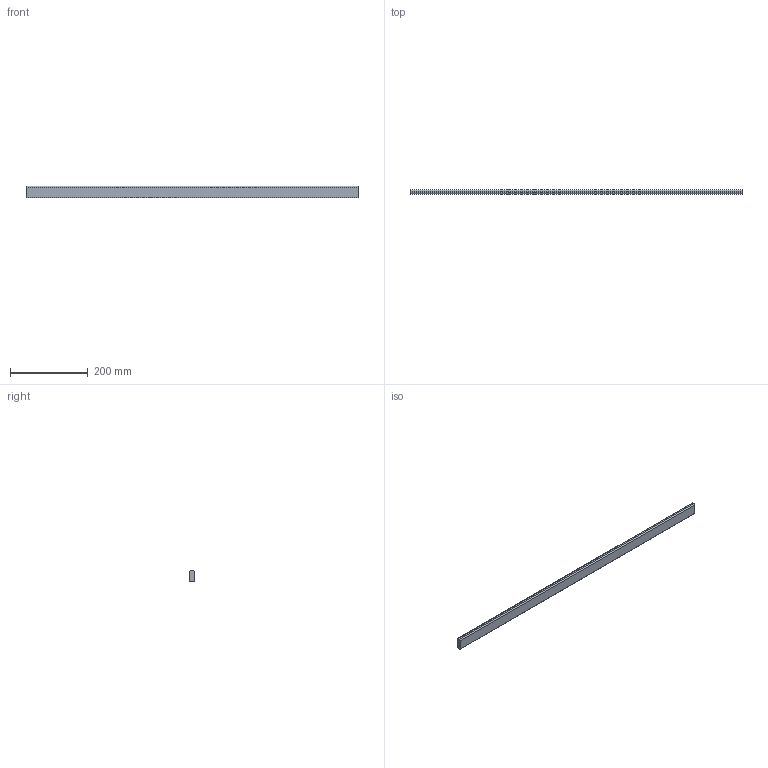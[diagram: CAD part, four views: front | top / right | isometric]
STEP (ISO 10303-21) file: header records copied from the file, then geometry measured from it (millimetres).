
FILE_DESCRIPTION (( 'STEP AP214' ), '1' );
FILE_NAME ('_Querreling_KAB-950_KS-19.step', '2010-08-26T14:58:39', ( 'grass' ), ( '' ), 'SwSTEP 2.0', 'SolidWorks 2009', '' );
FILE_SCHEMA (( 'AUTOMOTIVE_DESIGN' ));
Length unit declared in the file: millimetre
Products named in the file (1): _Querreling_KAB-950_KS-19
Bounding box: 856.5 x 10.5 x 30 mm (x, y, z)
Volume: 266121.4 mm3; surface area: 67057 mm2
Topology: 1 solids, 1 shells, 10 faces, 24 edges, 16 vertices
Faces by surface type: plane 6, cylinder 4
Entity records: 330 total; most frequent: DIRECTION 54, CARTESIAN_POINT 51, ORIENTED_EDGE 48, EDGE_CURVE 24, AXIS2_PLACEMENT_3D 19, VECTOR 16, LINE 16, VERTEX_POINT 16
